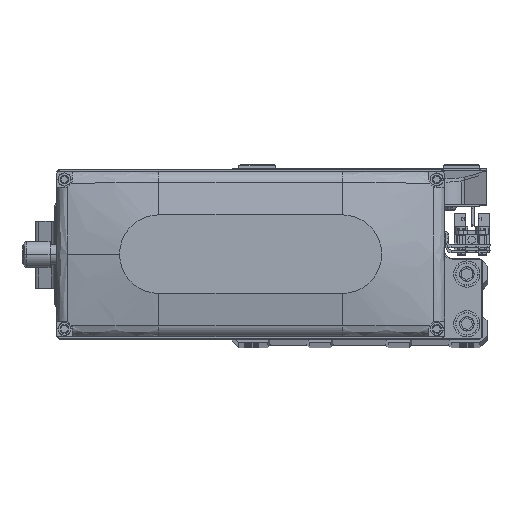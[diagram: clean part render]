
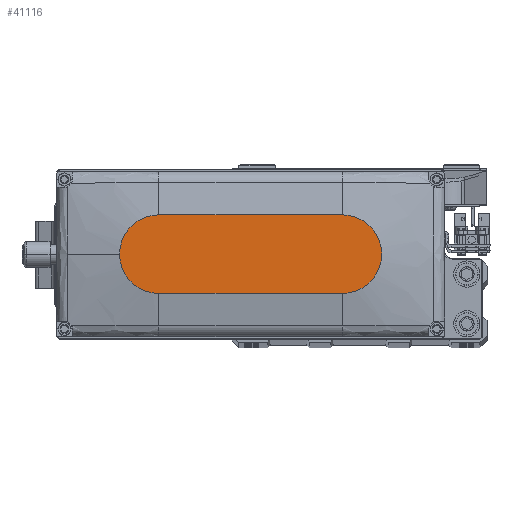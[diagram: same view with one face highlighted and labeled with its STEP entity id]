
A CAD part, top view. The second image highlights one B-rep face of the part: STEP entity #41116.
In plain terms, the highlighted planar face has unit normal (0, 0, 1).
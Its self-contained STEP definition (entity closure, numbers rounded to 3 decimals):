
#1250 = CARTESIAN_POINT ( 'NONE',  ( 35., 15., 35. ) ) ;
#1418 = DIRECTION ( 'NONE',  ( 1., 0., 0. ) ) ;
#2312 = CIRCLE ( 'NONE', #30262, 15. ) ;
#6096 = CARTESIAN_POINT ( 'NONE',  ( 0., 0., 35. ) ) ;
#7622 = ORIENTED_EDGE ( 'NONE', *, *, #11367, .T. ) ;
#7671 = VECTOR ( 'NONE', #27430, 1000. ) ;
#10107 = CARTESIAN_POINT ( 'NONE',  ( -35., 0., 35. ) ) ;
#11367 = EDGE_CURVE ( 'NONE', #24739, #43145, #35387, .T. ) ;
#12189 = CARTESIAN_POINT ( 'NONE',  ( -35., -15., 35. ) ) ;
#12269 = VERTEX_POINT ( 'NONE', #33743 ) ;
#12419 = ORIENTED_EDGE ( 'NONE', *, *, #17706, .T. ) ;
#13840 = AXIS2_PLACEMENT_3D ( 'NONE', #20415, #35678, #1418 ) ;
#13924 = AXIS2_PLACEMENT_3D ( 'NONE', #6096, #21350, #36621 ) ;
#14933 = CARTESIAN_POINT ( 'NONE',  ( 35., -15., 35. ) ) ;
#15582 = AXIS2_PLACEMENT_3D ( 'NONE', #10107, #25360, #40639 ) ;
#15882 = LINE ( 'NONE', #31137, #32148 ) ;
#16493 = VERTEX_POINT ( 'NONE', #37180 ) ;
#17706 = EDGE_CURVE ( 'NONE', #16493, #48845, #46459, .T. ) ;
#17829 = EDGE_LOOP ( 'NONE', ( #48610, #46552, #12419, #47170, #7622 ) ) ;
#18322 = CARTESIAN_POINT ( 'NONE',  ( 35., 0., 35. ) ) ;
#20415 = CARTESIAN_POINT ( 'NONE',  ( 35., 0., 35. ) ) ;
#21350 = DIRECTION ( 'NONE',  ( 0., 0., 1. ) ) ;
#24739 = VERTEX_POINT ( 'NONE', #32773 ) ;
#25102 = FACE_OUTER_BOUND ( 'NONE', #17829, .T. ) ;
#25360 = DIRECTION ( 'NONE',  ( 0., 0., 1. ) ) ;
#27430 = DIRECTION ( 'NONE',  ( 1., 0., 0. ) ) ;
#30262 = AXIS2_PLACEMENT_3D ( 'NONE', #18322, #33592, #48840 ) ;
#31137 = CARTESIAN_POINT ( 'NONE',  ( -35., 15., 35. ) ) ;
#32148 = VECTOR ( 'NONE', #46394, 1000. ) ;
#32773 = CARTESIAN_POINT ( 'NONE',  ( 50., 0., 35. ) ) ;
#33592 = DIRECTION ( 'NONE',  ( 0., 0., 1. ) ) ;
#33743 = CARTESIAN_POINT ( 'NONE',  ( -35., 15., 35. ) ) ;
#35387 = CIRCLE ( 'NONE', #13840, 15. ) ;
#35678 = DIRECTION ( 'NONE',  ( 0., 0., 1. ) ) ;
#36099 = EDGE_CURVE ( 'NONE', #48845, #24739, #2312, .T. ) ;
#36621 = DIRECTION ( 'NONE',  ( 1., 0., 0. ) ) ;
#37168 = CIRCLE ( 'NONE', #15582, 15. ) ;
#37180 = CARTESIAN_POINT ( 'NONE',  ( -35., -15., 35. ) ) ;
#39651 = EDGE_CURVE ( 'NONE', #43145, #12269, #15882, .T. ) ;
#40372 = PLANE ( 'NONE',  #13924 ) ;
#40639 = DIRECTION ( 'NONE',  ( 1., 0., 0. ) ) ;
#41116 = ADVANCED_FACE ( 'NONE', ( #25102 ), #40372, .T. ) ;
#43145 = VERTEX_POINT ( 'NONE', #1250 ) ;
#43678 = EDGE_CURVE ( 'NONE', #12269, #16493, #37168, .T. ) ;
#46394 = DIRECTION ( 'NONE',  ( -1., 0., 0. ) ) ;
#46459 = LINE ( 'NONE', #12189, #7671 ) ;
#46552 = ORIENTED_EDGE ( 'NONE', *, *, #43678, .T. ) ;
#47170 = ORIENTED_EDGE ( 'NONE', *, *, #36099, .T. ) ;
#48610 = ORIENTED_EDGE ( 'NONE', *, *, #39651, .T. ) ;
#48840 = DIRECTION ( 'NONE',  ( 1., 0., 0. ) ) ;
#48845 = VERTEX_POINT ( 'NONE', #14933 ) ;
